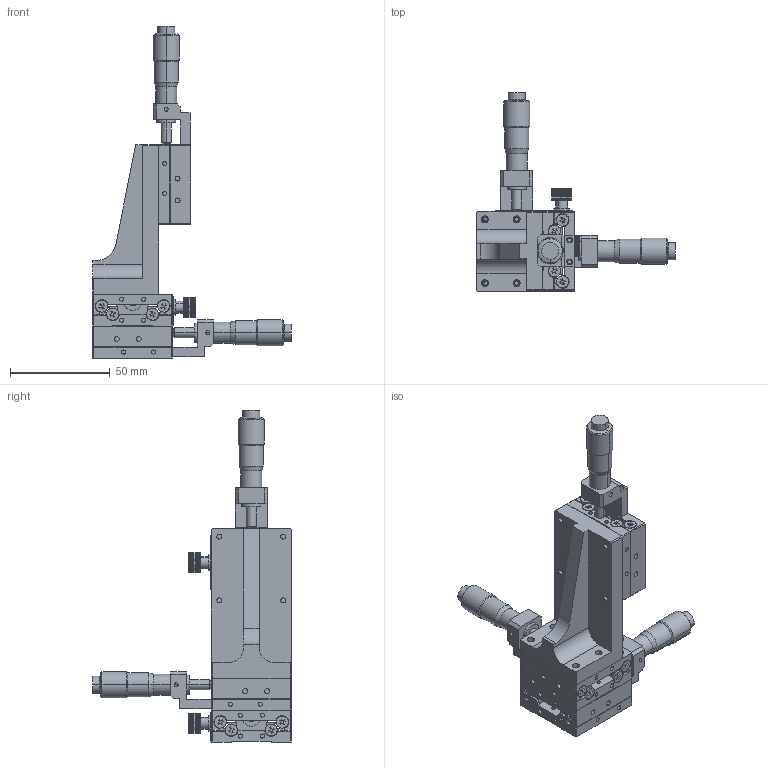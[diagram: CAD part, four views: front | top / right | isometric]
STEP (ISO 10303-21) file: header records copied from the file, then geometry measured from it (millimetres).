
FILE_DESCRIPTION (( 'STEP AP203' ), '1' );
FILE_NAME ('JXYZ-40C-16H.STEP', '2023-03-13T11:34:46', ( '微软用户' ), ( '微软中国' ), 'SwSTEP 2.0', 'SolidWorks 2018', '' );
FILE_SCHEMA (( 'CONFIG_CONTROL_DESIGN' ));
Length unit declared in the file: millimetre
Products named in the file (14): JCX-80(H18)菜え; JXYZ-40C-16H; JZ-40C(MIR)-16H; JX-40-02 狟裔; FC-NB-10 内六角滚花螺丝 （直纹）; JX-40-06 C千分尺固定块; JX-40蹟佪; JX-40-07 L啣; JX-40C-16H; JXY-40C-16H; JX-40-01奻裔; JX-40-05 癹弇え; JALB-72-R(0-13埴芛ロ煦喜); JX-40C(MIR)-16H
Assembly tree (50 placements, depth 4):
  JXYZ-40C-16H
    JXY-40C-16H
      JX-40C-16H
        JX-40-02 狟裔
        JX-40-01奻裔
        JX-40蹟佪  x8
        JALB-72-R(0-13埴芛ロ煦喜)
        JX-40-05 癹弇え
        FC-NB-10 内六角滚花螺丝 （直纹）
        JCX-80(H18)菜え
        JX-40-06 C千分尺固定块
      JX-40C(MIR)-16H
        JX-40-02 狟裔
        JX-40-01奻裔
        JX-40蹟佪  x8
        JALB-72-R(0-13埴芛ロ煦喜)
        JX-40-05 癹弇え
        FC-NB-10 内六角滚花螺丝 （直纹）
        JCX-80(H18)菜え
        JX-40-06 C千分尺固定块
    JZ-40C(MIR)-16H
      JX-40-02 狟裔
      JX-40-01奻裔
      JX-40蹟佪  x8
      JALB-72-R(0-13埴芛ロ煦喜)
      JX-40-05 癹弇え
      FC-NB-10 内六角滚花螺丝 （直纹）
      JCX-80(H18)菜え
      JX-40-06 C千分尺固定块
      JX-40-07 L啣
Bounding box: 99.5 x 99.5 x 166.5 mm (x, y, z)
Volume: 120979.8 mm3; surface area: 66594.7 mm2
Topology: 46 solids, 46 shells, 1900 faces, 4923 edges, 3265 vertices
Faces by surface type: cylinder 1063, plane 807, cone 18, sphere 12
Entity records: 19429 total; most frequent: DIRECTION 3179, CARTESIAN_POINT 3109, ORIENTED_EDGE 2750, EDGE_CURVE 1375, AXIS2_PLACEMENT_3D 1253, VERTEX_POINT 911, CIRCLE 678, LINE 673
